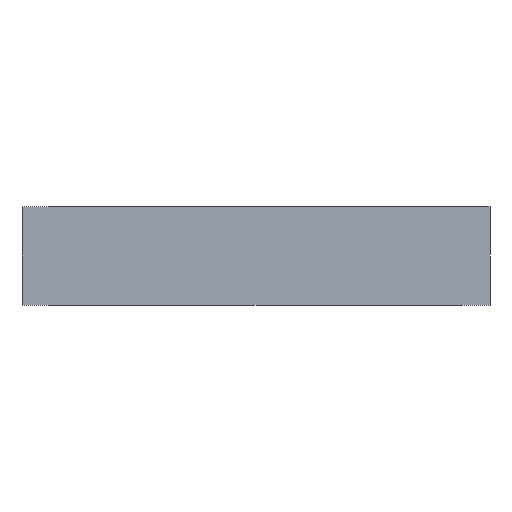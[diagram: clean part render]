
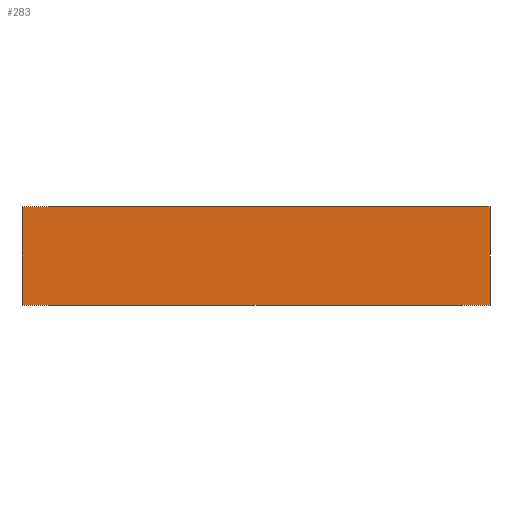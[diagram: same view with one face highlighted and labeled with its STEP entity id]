
A CAD part, front view. The second image highlights one B-rep face of the part: STEP entity #283.
In plain terms, the highlighted planar face has unit normal (0, -1, 0).
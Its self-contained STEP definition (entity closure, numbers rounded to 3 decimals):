
#283 = ADVANCED_FACE('',(#284),#298,.T.);
#284 = FACE_BOUND('',#285,.T.);
#285 = EDGE_LOOP('',(#286,#321,#349,#377));
#286 = ORIENTED_EDGE('',*,*,#287,.T.);
#287 = EDGE_CURVE('',#288,#290,#292,.T.);
#288 = VERTEX_POINT('',#289);
#289 = CARTESIAN_POINT('',(9.525,-9.525,-4.));
#290 = VERTEX_POINT('',#291);
#291 = CARTESIAN_POINT('',(9.525,-9.525,
    0.));
#292 = SURFACE_CURVE('',#293,(#297,#309),.PCURVE_S1.);
#293 = LINE('',#294,#295);
#294 = CARTESIAN_POINT('',(9.525,-9.525,-15.163));
#295 = VECTOR('',#296,1.);
#296 = DIRECTION('',(0.,0.,1.));
#297 = PCURVE('',#298,#303);
#298 = PLANE('',#299);
#299 = AXIS2_PLACEMENT_3D('',#300,#301,#302);
#300 = CARTESIAN_POINT('',(0.,-9.525,-15.163)
  );
#301 = DIRECTION('',(0.,-1.,0.));
#302 = DIRECTION('',(1.,0.,0.));
#303 = DEFINITIONAL_REPRESENTATION('',(#304),#308);
#304 = LINE('',#305,#306);
#305 = CARTESIAN_POINT('',(9.525,0.));
#306 = VECTOR('',#307,1.);
#307 = DIRECTION('',(0.,1.));
#308 = ( GEOMETRIC_REPRESENTATION_CONTEXT(2) 
PARAMETRIC_REPRESENTATION_CONTEXT() REPRESENTATION_CONTEXT('2D SPACE',''
  ) );
#309 = PCURVE('',#310,#315);
#310 = PLANE('',#311);
#311 = AXIS2_PLACEMENT_3D('',#312,#313,#314);
#312 = CARTESIAN_POINT('',(9.525,0.1,-15.163));
#313 = DIRECTION('',(1.,0.,0.));
#314 = DIRECTION('',(0.,1.,0.));
#315 = DEFINITIONAL_REPRESENTATION('',(#316),#320);
#316 = LINE('',#317,#318);
#317 = CARTESIAN_POINT('',(-9.625,0.));
#318 = VECTOR('',#319,1.);
#319 = DIRECTION('',(0.,1.));
#320 = ( GEOMETRIC_REPRESENTATION_CONTEXT(2) 
PARAMETRIC_REPRESENTATION_CONTEXT() REPRESENTATION_CONTEXT('2D SPACE',''
  ) );
#321 = ORIENTED_EDGE('',*,*,#322,.T.);
#322 = EDGE_CURVE('',#290,#323,#325,.T.);
#323 = VERTEX_POINT('',#324);
#324 = CARTESIAN_POINT('',(-9.525,-9.525,
    0.));
#325 = SURFACE_CURVE('',#326,(#330,#337),.PCURVE_S1.);
#326 = LINE('',#327,#328);
#327 = CARTESIAN_POINT('',(-21.665,-9.525,
    0.));
#328 = VECTOR('',#329,1.);
#329 = DIRECTION('',(-1.,0.,0.));
#330 = PCURVE('',#298,#331);
#331 = DEFINITIONAL_REPRESENTATION('',(#332),#336);
#332 = LINE('',#333,#334);
#333 = CARTESIAN_POINT('',(-21.665,15.163));
#334 = VECTOR('',#335,1.);
#335 = DIRECTION('',(-1.,0.));
#336 = ( GEOMETRIC_REPRESENTATION_CONTEXT(2) 
PARAMETRIC_REPRESENTATION_CONTEXT() REPRESENTATION_CONTEXT('2D SPACE',''
  ) );
#337 = PCURVE('',#338,#343);
#338 = PLANE('',#339);
#339 = AXIS2_PLACEMENT_3D('',#340,#341,#342);
#340 = CARTESIAN_POINT('',(-43.331,-40.412,
    0.));
#341 = DIRECTION('',(0.,0.,1.));
#342 = DIRECTION('',(1.,0.,0.));
#343 = DEFINITIONAL_REPRESENTATION('',(#344),#348);
#344 = LINE('',#345,#346);
#345 = CARTESIAN_POINT('',(21.665,30.887));
#346 = VECTOR('',#347,1.);
#347 = DIRECTION('',(-1.,0.));
#348 = ( GEOMETRIC_REPRESENTATION_CONTEXT(2) 
PARAMETRIC_REPRESENTATION_CONTEXT() REPRESENTATION_CONTEXT('2D SPACE',''
  ) );
#349 = ORIENTED_EDGE('',*,*,#350,.F.);
#350 = EDGE_CURVE('',#351,#323,#353,.T.);
#351 = VERTEX_POINT('',#352);
#352 = CARTESIAN_POINT('',(-9.525,-9.525,-4.));
#353 = SURFACE_CURVE('',#354,(#358,#365),.PCURVE_S1.);
#354 = LINE('',#355,#356);
#355 = CARTESIAN_POINT('',(-9.525,-9.525,-15.163));
#356 = VECTOR('',#357,1.);
#357 = DIRECTION('',(0.,0.,1.));
#358 = PCURVE('',#298,#359);
#359 = DEFINITIONAL_REPRESENTATION('',(#360),#364);
#360 = LINE('',#361,#362);
#361 = CARTESIAN_POINT('',(-9.525,0.));
#362 = VECTOR('',#363,1.);
#363 = DIRECTION('',(0.,1.));
#364 = ( GEOMETRIC_REPRESENTATION_CONTEXT(2) 
PARAMETRIC_REPRESENTATION_CONTEXT() REPRESENTATION_CONTEXT('2D SPACE',''
  ) );
#365 = PCURVE('',#366,#371);
#366 = PLANE('',#367);
#367 = AXIS2_PLACEMENT_3D('',#368,#369,#370);
#368 = CARTESIAN_POINT('',(-9.525,0.1,-15.163));
#369 = DIRECTION('',(-1.,0.,0.));
#370 = DIRECTION('',(0.,-1.,0.));
#371 = DEFINITIONAL_REPRESENTATION('',(#372),#376);
#372 = LINE('',#373,#374);
#373 = CARTESIAN_POINT('',(9.625,0.));
#374 = VECTOR('',#375,1.);
#375 = DIRECTION('',(0.,1.));
#376 = ( GEOMETRIC_REPRESENTATION_CONTEXT(2) 
PARAMETRIC_REPRESENTATION_CONTEXT() REPRESENTATION_CONTEXT('2D SPACE',''
  ) );
#377 = ORIENTED_EDGE('',*,*,#378,.F.);
#378 = EDGE_CURVE('',#288,#351,#379,.T.);
#379 = SURFACE_CURVE('',#380,(#384,#391),.PCURVE_S1.);
#380 = LINE('',#381,#382);
#381 = CARTESIAN_POINT('',(0.,-9.525,-4.));
#382 = VECTOR('',#383,1.);
#383 = DIRECTION('',(-1.,0.,0.));
#384 = PCURVE('',#298,#385);
#385 = DEFINITIONAL_REPRESENTATION('',(#386),#390);
#386 = LINE('',#387,#388);
#387 = CARTESIAN_POINT('',(0.,11.163));
#388 = VECTOR('',#389,1.);
#389 = DIRECTION('',(-1.,0.));
#390 = ( GEOMETRIC_REPRESENTATION_CONTEXT(2) 
PARAMETRIC_REPRESENTATION_CONTEXT() REPRESENTATION_CONTEXT('2D SPACE',''
  ) );
#391 = PCURVE('',#392,#397);
#392 = PLANE('',#393);
#393 = AXIS2_PLACEMENT_3D('',#394,#395,#396);
#394 = CARTESIAN_POINT('',(47.36,-32.638,-4.));
#395 = DIRECTION('',(0.,0.,1.));
#396 = DIRECTION('',(1.,0.,-0.));
#397 = DEFINITIONAL_REPRESENTATION('',(#398),#402);
#398 = LINE('',#399,#400);
#399 = CARTESIAN_POINT('',(-47.36,23.113));
#400 = VECTOR('',#401,1.);
#401 = DIRECTION('',(-1.,0.));
#402 = ( GEOMETRIC_REPRESENTATION_CONTEXT(2) 
PARAMETRIC_REPRESENTATION_CONTEXT() REPRESENTATION_CONTEXT('2D SPACE',''
  ) );
